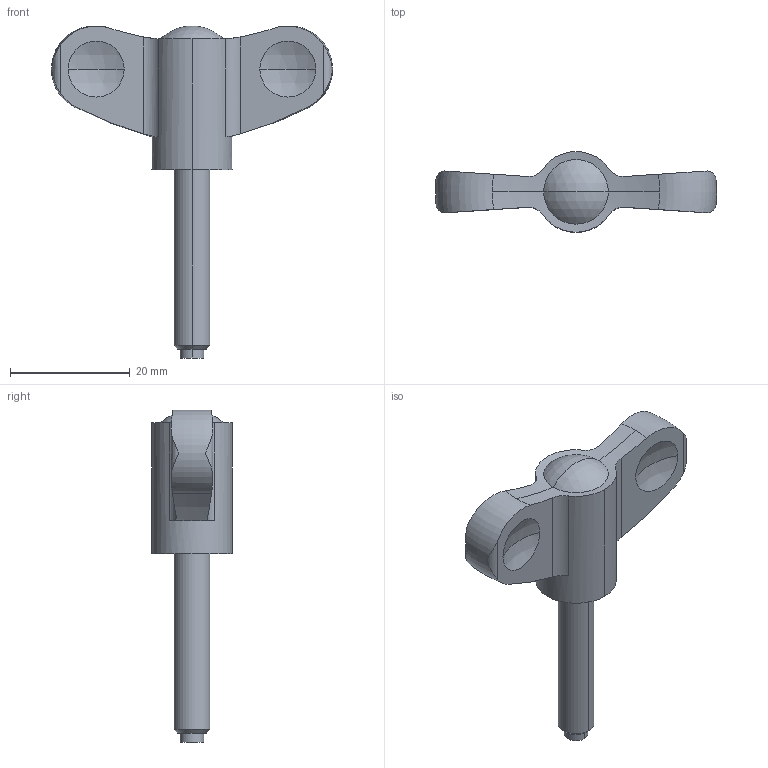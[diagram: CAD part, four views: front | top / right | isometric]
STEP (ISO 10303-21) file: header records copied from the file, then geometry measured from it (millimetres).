
FILE_DESCRIPTION (( 'STEP AP203' ), '1' );
FILE_NAME ('ewn48ax30-bs-bk.STEP', '2021-10-25T02:15:03', ( '' ), ( '' ), 'SwSTEP 2.0', 'SolidWorks 2020', '' );
FILE_SCHEMA (( 'CONFIG_CONTROL_DESIGN' ));
Length unit declared in the file: millimetre
Products named in the file (1): ewn48ax30-bs-bk
Bounding box: 47 x 13.5 x 55.5 mm (x, y, z)
Volume: 6764 mm3; surface area: 3113.4 mm2
Topology: 1 solids, 1 shells, 41 faces, 104 edges, 71 vertices
Faces by surface type: cylinder 16, sphere 12, plane 7, torus 4, cone 2
Entity records: 1577 total; most frequent: CARTESIAN_POINT 513, ORIENTED_EDGE 208, DIRECTION 206, EDGE_CURVE 104, AXIS2_PLACEMENT_3D 92, VERTEX_POINT 71, CIRCLE 50, EDGE_LOOP 47
